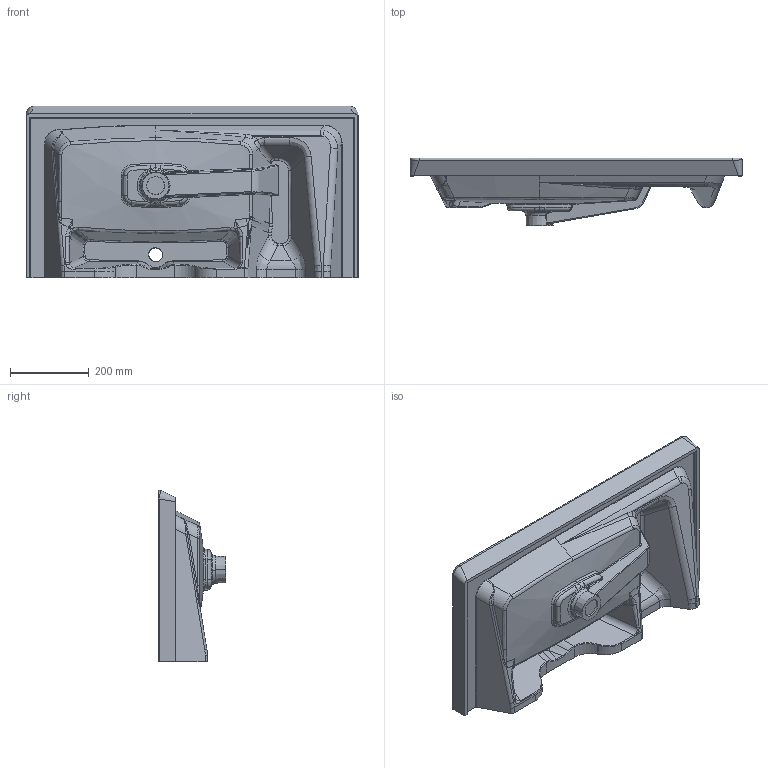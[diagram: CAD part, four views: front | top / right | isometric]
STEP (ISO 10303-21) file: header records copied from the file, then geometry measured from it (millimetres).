
FILE_DESCRIPTION (( 'STEP AP203' ), '1' );
FILE_NAME ('MY085-00CB00E-0000.STEP', '2022-04-20T07:19:03', ( '' ), ( '' ), 'SwSTEP 2.0', 'SolidWorks 2021', '' );
FILE_SCHEMA (( 'CONFIG_CONTROL_DESIGN' ));
Products named in the file (1): MY085-00CB00E-0000
Bounding box: 845 x 172 x 437.59 mm (x, y, z)
Volume: 14296363.8 mm3; surface area: 1186102.8 mm2
Topology: 3 solids, 3 shells, 537 faces, 1481 edges, 930 vertices
Faces by surface type: bspline 279, cylinder 121, plane 76, torus 25, sphere 19, cone 17
Entity records: 39925 total; most frequent: CARTESIAN_POINT 29116, ORIENTED_EDGE 2902, EDGE_CURVE 1451, DIRECTION 1372, VERTEX_POINT 930, B_SPLINE_CURVE_WITH_KNOTS 814, AXIS2_PLACEMENT_3D 578, EDGE_LOOP 551
